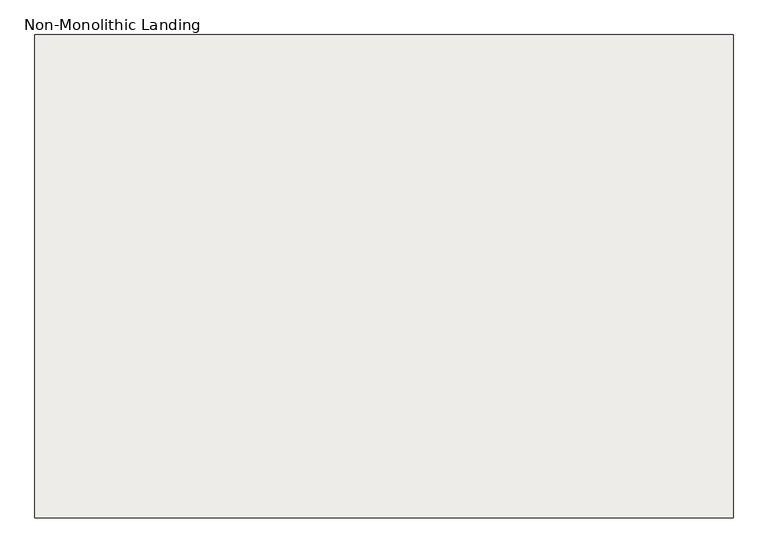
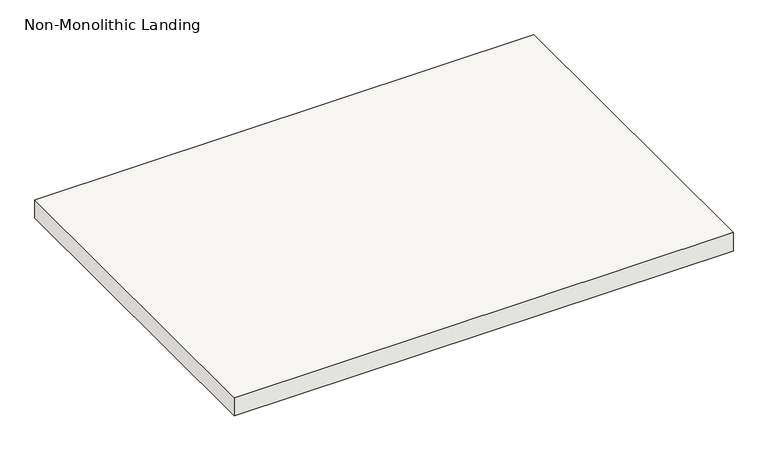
"""IFC4 building model written with IfcOpenShell, lengths in millimetres: slab geometry, Non-Monolithic Landing."""

from ifc_helpers import new_model, si_unit, frame, origin, place, context, project, spatial, polyline, outline, extrude, source, transform, mapped, element, save


def non_monolithic_landing_4edcb1f4(model_context):
    return source(origin(), model_context, "Body", "SweptSolid", [
        extrude(outline(polyline([(162982.2620703, -18034.2120358), (164303.0620703, -18034.2120358), (164303.0620703, -18948.6120358), (162982.2620703, -18948.6120358), (162982.2620703, -18034.2120358)])), frame((0.0, 0.0, 2126.3428571), z_axis=(0.0, 0.0, 1.0), x_axis=(1.0, 0.0, 0.0)), (0.0, 0.0, 1.0), 50.8),
    ])


if __name__ == "__main__":
    model = new_model("IFC4")
    model_context = context("Model", 3, world=origin())
    ifc_project = project(units=[si_unit("LENGTHUNIT", "METRE", prefix="MILLI")], contexts=[model_context])
    site = spatial("IfcSite", under=ifc_project)
    building = spatial("IfcBuilding", under=site)
    placement = place(None, origin())
    non_monolithic_landing_shape = non_monolithic_landing_4edcb1f4(model_context)
    element("IfcSlab", 1, ObjectType="Non-Monolithic Landing", at=placement, inside=building, context=model_context, shape_type="MappedRepresentation", body=[
        mapped(non_monolithic_landing_shape, transform((0.0, 0.0, 0.0), x_axis=(1.0, 0.0, 0.0), y_axis=(0.0, 1.0, 0.0), z_axis=(0.0, 0.0, 1.0))),
    ])
    save(model, "model.ifc")
